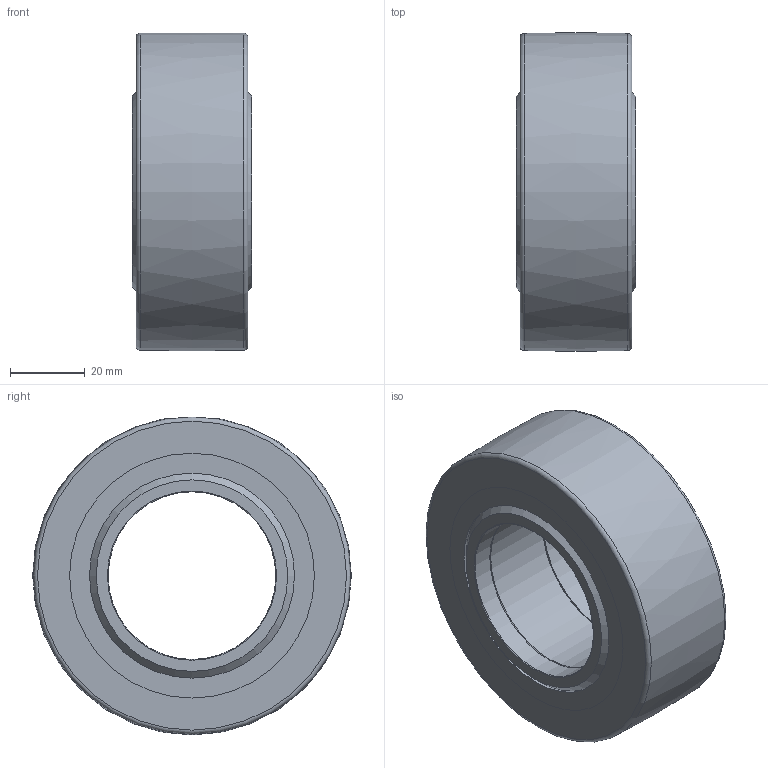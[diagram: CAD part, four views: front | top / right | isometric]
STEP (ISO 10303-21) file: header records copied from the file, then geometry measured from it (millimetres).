
FILE_DESCRIPTION(/* description */ (''),/* implementation_level */ '2;1');
FILE_NAME(/* name */ 'C:\Users\OUREHANEKD\Desktop\Ložiská 3D\MODELY\Ihlove loziska\NUTR\NUTR--\NUTR45.stp',/* time_stamp */ '2016-10-31T13:16:33+01:00',/* author */ ('OUREHANEKD'),/* organization */ (''),/* preprocessor_version */ 'ST-DEVELOPER v15.6',/* originating_system */ 'Autodesk Inventor 2015',/* authorisation */ '');
FILE_SCHEMA (('AUTOMOTIVE_DESIGN { 1 0 10303 214 3 1 1 }'));
Length unit declared in the file: millimetre
Products named in the file (6): NUTR45-01; NUTR45-02; NUTR45-kr; NUTR45-seal; NUTR45-needle; NUTR45
Assembly tree (24 placements, depth 2):
  NUTR45
    NUTR45-01
    NUTR45-02
    NUTR45-kr
    NUTR45-seal
    NUTR45-needle  x20
Bounding box: 32 x 85.45 x 85.26 mm (x, y, z)
Volume: 112270.2 mm3; surface area: 59220.8 mm2
Topology: 26 solids, 26 shells, 106 faces, 136 edges, 88 vertices
Faces by surface type: plane 58, cylinder 37, cone 6, torus 4, bspline 1
Full cylindrical faces by diameter (mm): 8.31 x20, 45 x3, 55 x4, 56.38 x1, 63.7 x4, 65.68 x4, 73 x1
Entity records: 1322 total; most frequent: DIRECTION 256, CARTESIAN_POINT 208, AXIS2_PLACEMENT_3D 128, ORIENTED_EDGE 102, EDGE_LOOP 95, EDGE_CURVE 51, CIRCLE 50, VERTEX_POINT 50
